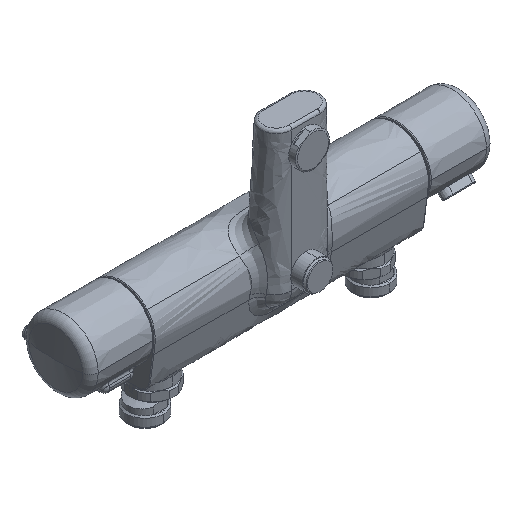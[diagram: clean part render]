
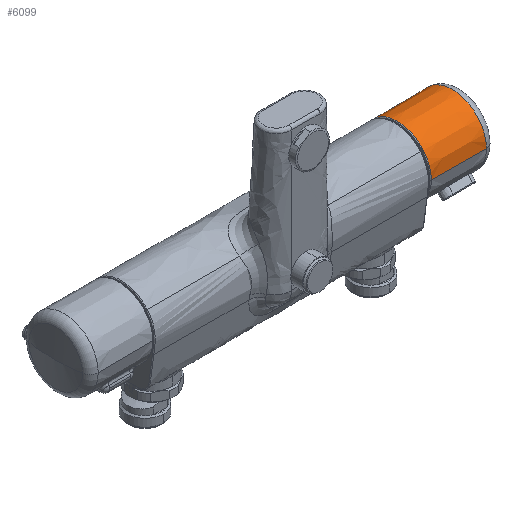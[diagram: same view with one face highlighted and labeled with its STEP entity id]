
A CAD part, isometric view. The second image highlights one B-rep face of the part: STEP entity #6099.
In plain terms, the highlighted conical face has half-angle 0.25 degrees and reference radius 24.194 mm.
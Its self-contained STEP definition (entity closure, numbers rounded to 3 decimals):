
#146 = CARTESIAN_POINT ( 'NONE',  ( 120.141, 23.604, 63.342 ) ) ;
#251 = CARTESIAN_POINT ( 'NONE',  ( 118.119, 23.94, 61.184 ) ) ;
#297 = CARTESIAN_POINT ( 'NONE',  ( 98.721, 24.002, 58.5 ) ) ;
#403 = CARTESIAN_POINT ( 'NONE',  ( 117.452, 24.084, 58.5 ) ) ;
#626 = DIRECTION ( 'NONE',  ( 0., -1., 0. ) ) ;
#1007 = ORIENTED_EDGE ( 'NONE', *, *, #3481, .T. ) ;
#1310 = CARTESIAN_POINT ( 'NONE',  ( 119.974, 23.626, 63.23 ) ) ;
#1849 = VERTEX_POINT ( 'NONE', #8161 ) ;
#2362 = CARTESIAN_POINT ( 'NONE',  ( 120.653, 23.542, 63.651 ) ) ;
#2457 = CARTESIAN_POINT ( 'NONE',  ( 119.654, 23.671, 62.992 ) ) ;
#2501 = CARTESIAN_POINT ( 'NONE',  ( 118.319, 23.899, 61.526 ) ) ;
#2869 = CARTESIAN_POINT ( 'NONE',  ( 98.721, 0., 58.5 ) ) ;
#3404 = DIRECTION ( 'NONE',  ( 1., -0.004, 0. ) ) ;
#3481 = EDGE_CURVE ( 'NONE', #13170, #1849, #5441, .T. ) ;
#3618 = CARTESIAN_POINT ( 'NONE',  ( 119.5, 23.694, 62.866 ) ) ;
#3834 = DIRECTION ( 'NONE',  ( 1., 0., 0. ) ) ;
#4300 = AXIS2_PLACEMENT_3D ( 'NONE', #13641, #12641, #4697 ) ;
#4550 = CARTESIAN_POINT ( 'NONE',  ( 137.558, 23.45, 64.362 ) ) ;
#4686 = LINE ( 'NONE', #7965, #11835 ) ;
#4697 = DIRECTION ( 'NONE',  ( 0., 1., 0. ) ) ;
#4766 = CARTESIAN_POINT ( 'NONE',  ( 119.06, 23.764, 62.467 ) ) ;
#4774 = CARTESIAN_POINT ( 'NONE',  ( 137.558, 23.45, 64.362 ) ) ;
#4811 = CARTESIAN_POINT ( 'NONE',  ( 117.495, 24.074, 59.295 ) ) ;
#4858 = CARTESIAN_POINT ( 'NONE',  ( 117.452, 24.084, 58.9 ) ) ;
#4958 = CARTESIAN_POINT ( 'NONE',  ( 117.452, 24.084, 58.5 ) ) ;
#5281 = DIRECTION ( 'NONE',  ( -1., 0., 0. ) ) ;
#5441 = B_SPLINE_CURVE_WITH_KNOTS ( 'NONE', 3,
 ( #4774, #8231, #9441, #12970 ),
 .UNSPECIFIED., .F., .F.,
 ( 4, 4 ),
 ( 0., 0.014 ),
 .UNSPECIFIED. ) ;
#5697 = EDGE_LOOP ( 'NONE', ( #6757, #14391, #10313, #1007, #10173, #6410 ) ) ;
#5810 = VERTEX_POINT ( 'NONE', #403 ) ;
#5835 = CARTESIAN_POINT ( 'NONE',  ( 122.935, 23.388, 64.348 ) ) ;
#5886 = CARTESIAN_POINT ( 'NONE',  ( 121.011, 23.505, 63.823 ) ) ;
#6099 = ADVANCED_FACE ( 'NONE', ( #12203 ), #13082, .T. ) ;
#6173 = EDGE_CURVE ( 'NONE', #7691, #11556, #4686, .T. ) ;
#6410 = ORIENTED_EDGE ( 'NONE', *, *, #8674, .F. ) ;
#6757 = ORIENTED_EDGE ( 'NONE', *, *, #9429, .T. ) ;
#6933 = CARTESIAN_POINT ( 'NONE',  ( 121.759, 23.443, 64.102 ) ) ;
#7027 = CARTESIAN_POINT ( 'NONE',  ( 123.333, 23.381, 64.383 ) ) ;
#7691 = VERTEX_POINT ( 'NONE', #14242 ) ;
#7790 = AXIS2_PLACEMENT_3D ( 'NONE', #11120, #5281, #12174 ) ;
#7965 = CARTESIAN_POINT ( 'NONE',  ( 142.652, -24.194, 58.5 ) ) ;
#8031 = CARTESIAN_POINT ( 'NONE',  ( 142.652, 24.194, 58.5 ) ) ;
#8161 = CARTESIAN_POINT ( 'NONE',  ( 123.736, 23.383, 64.382 ) ) ;
#8231 = CARTESIAN_POINT ( 'NONE',  ( 132.951, 23.428, 64.369 ) ) ;
#8630 = CIRCLE ( 'NONE', #7790, 24.172 ) ;
#8674 = EDGE_CURVE ( 'NONE', #11749, #5810, #14181, .T. ) ;
#9011 = AXIS2_PLACEMENT_3D ( 'NONE', #2869, #3834, #626 ) ;
#9387 = CARTESIAN_POINT ( 'NONE',  ( 123.736, 23.383, 64.382 ) ) ;
#9429 = EDGE_CURVE ( 'NONE', #11749, #7691, #11851, .T. ) ;
#9441 = CARTESIAN_POINT ( 'NONE',  ( 128.344, 23.405, 64.376 ) ) ;
#10173 = ORIENTED_EDGE ( 'NONE', *, *, #12477, .T. ) ;
#10313 = ORIENTED_EDGE ( 'NONE', *, *, #11963, .T. ) ;
#10466 = DIRECTION ( 'NONE',  ( 1., 0.004, 0. ) ) ;
#10467 = CARTESIAN_POINT ( 'NONE',  ( 122.15, 23.419, 64.208 ) ) ;
#10510 = CARTESIAN_POINT ( 'NONE',  ( 117.663, 24.036, 60.075 ) ) ;
#11120 = CARTESIAN_POINT ( 'NONE',  ( 137.558, 0., 58.5 ) ) ;
#11160 = VECTOR ( 'NONE', #10466, 1000. ) ;
#11356 = B_SPLINE_CURVE_WITH_KNOTS ( 'NONE', 3,
 ( #9387, #7027, #5835, #10467, #6933, #5886, #2362, #146, #1310, #2457, #3618, #4766, #12766, #2501, #251, #13939, #10510, #4811, #4858, #4958 ),
 .UNSPECIFIED., .F., .F.,
 ( 4, 2, 2, 2, 2, 2, 2, 2, 2, 4 ),
 ( 0., 0.001, 0.002, 0.004, 0.004, 0.005, 0.006, 0.007, 0.008, 0.01 ),
 .UNSPECIFIED. ) ;
#11556 = VERTEX_POINT ( 'NONE', #13656 ) ;
#11749 = VERTEX_POINT ( 'NONE', #297 ) ;
#11835 = VECTOR ( 'NONE', #3404, 1000. ) ;
#11851 = CIRCLE ( 'NONE', #9011, 24.002 ) ;
#11963 = EDGE_CURVE ( 'NONE', #11556, #13170, #8630, .T. ) ;
#12174 = DIRECTION ( 'NONE',  ( 0., -1., 0. ) ) ;
#12203 = FACE_OUTER_BOUND ( 'NONE', #5697, .T. ) ;
#12477 = EDGE_CURVE ( 'NONE', #1849, #5810, #11356, .T. ) ;
#12641 = DIRECTION ( 'NONE',  ( 1., 0., 0. ) ) ;
#12766 = CARTESIAN_POINT ( 'NONE',  ( 118.793, 23.81, 62.172 ) ) ;
#12970 = CARTESIAN_POINT ( 'NONE',  ( 123.736, 23.383, 64.382 ) ) ;
#13082 = CONICAL_SURFACE ( 'NONE', #4300, 24.194, 0.004 ) ;
#13170 = VERTEX_POINT ( 'NONE', #4550 ) ;
#13641 = CARTESIAN_POINT ( 'NONE',  ( 142.652, 0., 58.5 ) ) ;
#13656 = CARTESIAN_POINT ( 'NONE',  ( 137.558, -24.172, 58.5 ) ) ;
#13939 = CARTESIAN_POINT ( 'NONE',  ( 117.791, 24.008, 60.46 ) ) ;
#14181 = LINE ( 'NONE', #8031, #11160 ) ;
#14242 = CARTESIAN_POINT ( 'NONE',  ( 98.721, -24.002, 58.5 ) ) ;
#14391 = ORIENTED_EDGE ( 'NONE', *, *, #6173, .T. ) ;
